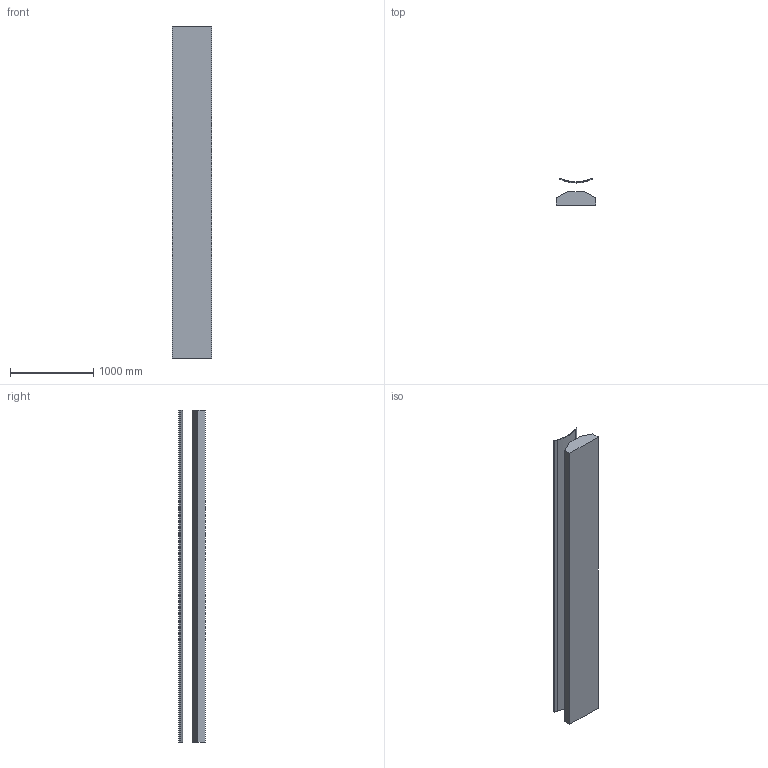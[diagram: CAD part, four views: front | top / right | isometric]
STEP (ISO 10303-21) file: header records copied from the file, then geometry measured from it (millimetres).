
FILE_DESCRIPTION (( 'STEP AP203' ), '1' );
FILE_NAME ('30777.step', '2019-03-14T14:33:13', ( 'PC' ), ( 'Hewlett-Packard Company' ), 'SwSTEP 2.0', 'SolidWorks 2016', '' );
FILE_SCHEMA (( 'CONFIG_CONTROL_DESIGN' ));
Length unit declared in the file: millimetre
Products named in the file (1): 30777
Bounding box: 480 x 321.97 x 4000 mm (x, y, z)
Volume: 280710639.1 mm3; surface area: 8074213.2 mm2
Topology: 2 solids, 2 shells, 18 faces, 42 edges, 28 vertices
Faces by surface type: plane 16, cylinder 2
Entity records: 585 total; most frequent: CARTESIAN_POINT 89, DIRECTION 84, ORIENTED_EDGE 84, EDGE_CURVE 42, LINE 38, VECTOR 38, VERTEX_POINT 28, AXIS2_PLACEMENT_3D 23
